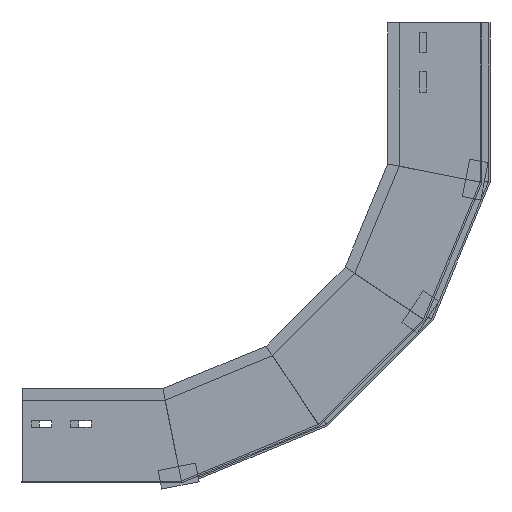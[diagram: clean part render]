
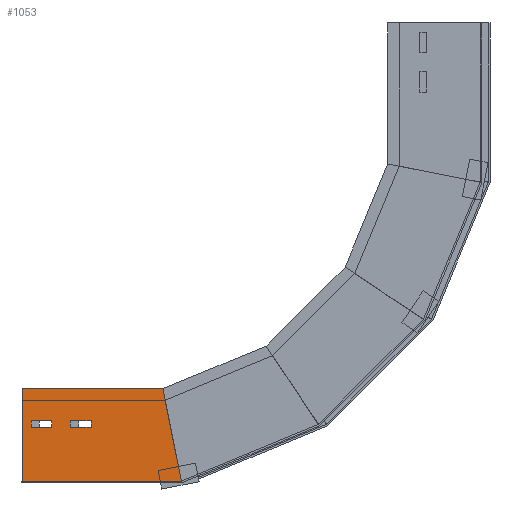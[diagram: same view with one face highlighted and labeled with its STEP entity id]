
A CAD part, left-side view. The second image highlights one B-rep face of the part: STEP entity #1053.
In plain terms, the highlighted planar face has unit normal (-1, 0, 0) as drawn and (1, 0, 0) by its records, which use the part's own axes.
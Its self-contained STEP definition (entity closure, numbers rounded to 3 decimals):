
#8 = DIRECTION ( 'NONE',  ( 0., 0., -1. ) ) ;
#22 = EDGE_CURVE ( 'NONE', #28, #1872, #430, .T. ) ;
#28 = VERTEX_POINT ( 'NONE', #1263 ) ;
#41 = DIRECTION ( 'NONE',  ( 0., 1., 0. ) ) ;
#49 = EDGE_CURVE ( 'NONE', #691, #177, #113, .T. ) ;
#51 = ORIENTED_EDGE ( 'NONE', *, *, #22, .F. ) ;
#55 = EDGE_CURVE ( 'NONE', #640, #1453, #536, .T. ) ;
#99 = ORIENTED_EDGE ( 'NONE', *, *, #364, .T. ) ;
#102 = DIRECTION ( 'NONE',  ( 0., 0., 1. ) ) ;
#104 = VECTOR ( 'NONE', #8, 1000. ) ;
#113 = LINE ( 'NONE', #1292, #1752 ) ;
#119 = CARTESIAN_POINT ( 'NONE',  ( 0., 59., -9.835 ) ) ;
#136 = CARTESIAN_POINT ( 'NONE',  ( 0., 0., -169.6 ) ) ;
#153 = FACE_BOUND ( 'NONE', #454, .T. ) ;
#157 = CARTESIAN_POINT ( 'NONE',  ( 0., 0., 0. ) ) ;
#167 = CARTESIAN_POINT ( 'NONE',  ( 0., 66., -31.835 ) ) ;
#177 = VERTEX_POINT ( 'NONE', #772 ) ;
#231 = VERTEX_POINT ( 'NONE', #157 ) ;
#280 = ORIENTED_EDGE ( 'NONE', *, *, #1283, .T. ) ;
#294 = DIRECTION ( 'NONE',  ( -1., 0., 0. ) ) ;
#298 = DIRECTION ( 'NONE',  ( 0., -1., 0. ) ) ;
#309 = ORIENTED_EDGE ( 'NONE', *, *, #942, .T. ) ;
#364 = EDGE_CURVE ( 'NONE', #1491, #1034, #502, .T. ) ;
#369 = VECTOR ( 'NONE', #863, 1000. ) ;
#397 = LINE ( 'NONE', #825, #1392 ) ;
#424 = VECTOR ( 'NONE', #856, 1000. ) ;
#430 = LINE ( 'NONE', #1860, #424 ) ;
#454 = EDGE_LOOP ( 'NONE', ( #1745, #99, #1389, #1823 ) ) ;
#488 = LINE ( 'NONE', #1386, #1105 ) ;
#501 = CARTESIAN_POINT ( 'NONE',  ( 0., 59., -31.835 ) ) ;
#502 = LINE ( 'NONE', #541, #1183 ) ;
#524 = VECTOR ( 'NONE', #41, 1000. ) ;
#527 = CARTESIAN_POINT ( 'NONE',  ( 0., 66., -9.835 ) ) ;
#536 = LINE ( 'NONE', #979, #1158 ) ;
#541 = CARTESIAN_POINT ( 'NONE',  ( 0., 66., -51.505 ) ) ;
#613 = VECTOR ( 'NONE', #1647, 1000. ) ;
#630 = EDGE_LOOP ( 'NONE', ( #1442, #1052, #1379, #309 ) ) ;
#640 = VERTEX_POINT ( 'NONE', #776 ) ;
#691 = VERTEX_POINT ( 'NONE', #1678 ) ;
#754 = CARTESIAN_POINT ( 'NONE',  ( 0., 66., -51.505 ) ) ;
#772 = CARTESIAN_POINT ( 'NONE',  ( 0., 59., -51.505 ) ) ;
#776 = CARTESIAN_POINT ( 'NONE',  ( 0., 66., -9.835 ) ) ;
#825 = CARTESIAN_POINT ( 'NONE',  ( 0., 59., -9.835 ) ) ;
#853 = AXIS2_PLACEMENT_3D ( 'NONE', #1309, #294, #1626 ) ;
#856 = DIRECTION ( 'NONE',  ( 0., -0.981, -0.195 ) ) ;
#863 = DIRECTION ( 'NONE',  ( 0., 0., -1. ) ) ;
#871 = EDGE_LOOP ( 'NONE', ( #1726, #1113, #280, #51 ) ) ;
#888 = LINE ( 'NONE', #754, #524 ) ;
#895 = CARTESIAN_POINT ( 'NONE',  ( 0., 66., -51.505 ) ) ;
#917 = VECTOR ( 'NONE', #1417, 1000. ) ;
#942 = EDGE_CURVE ( 'NONE', #1190, #1706, #397, .T. ) ;
#979 = CARTESIAN_POINT ( 'NONE',  ( 0., 66., -9.835 ) ) ;
#1009 = LINE ( 'NONE', #1040, #613 ) ;
#1012 = CARTESIAN_POINT ( 'NONE',  ( 0., 66., -31.835 ) ) ;
#1030 = FACE_BOUND ( 'NONE', #630, .T. ) ;
#1034 = VERTEX_POINT ( 'NONE', #1837 ) ;
#1040 = CARTESIAN_POINT ( 'NONE',  ( 0., 0., 0. ) ) ;
#1052 = ORIENTED_EDGE ( 'NONE', *, *, #55, .T. ) ;
#1053 = ADVANCED_FACE ( 'NONE', ( #153, #1606, #1030 ), #1156, .F. ) ;
#1082 = DIRECTION ( 'NONE',  ( 0., -1., 0. ) ) ;
#1090 = EDGE_CURVE ( 'NONE', #1264, #28, #1615, .T. ) ;
#1097 = CARTESIAN_POINT ( 'NONE',  ( 0., 0., 0. ) ) ;
#1105 = VECTOR ( 'NONE', #1082, 1000. ) ;
#1113 = ORIENTED_EDGE ( 'NONE', *, *, #1861, .F. ) ;
#1123 = DIRECTION ( 'NONE',  ( 0., 0., -1. ) ) ;
#1156 = PLANE ( 'NONE',  #853 ) ;
#1158 = VECTOR ( 'NONE', #1123, 1000. ) ;
#1167 = VECTOR ( 'NONE', #298, 1000. ) ;
#1183 = VECTOR ( 'NONE', #1393, 1000. ) ;
#1190 = VERTEX_POINT ( 'NONE', #501 ) ;
#1193 = CARTESIAN_POINT ( 'NONE',  ( 0., 100., 0. ) ) ;
#1263 = CARTESIAN_POINT ( 'NONE',  ( 0., 100., -149.709 ) ) ;
#1264 = VERTEX_POINT ( 'NONE', #1193 ) ;
#1283 = EDGE_CURVE ( 'NONE', #231, #1872, #1382, .T. ) ;
#1292 = CARTESIAN_POINT ( 'NONE',  ( 0., 59., -51.505 ) ) ;
#1309 = CARTESIAN_POINT ( 'NONE',  ( 0., 0., 0. ) ) ;
#1379 = ORIENTED_EDGE ( 'NONE', *, *, #1503, .T. ) ;
#1382 = LINE ( 'NONE', #1097, #104 ) ;
#1386 = CARTESIAN_POINT ( 'NONE',  ( 0., 66., -73.505 ) ) ;
#1389 = ORIENTED_EDGE ( 'NONE', *, *, #1535, .T. ) ;
#1392 = VECTOR ( 'NONE', #102, 1000. ) ;
#1393 = DIRECTION ( 'NONE',  ( 0., 0., -1. ) ) ;
#1417 = DIRECTION ( 'NONE',  ( 0., 1., 0. ) ) ;
#1442 = ORIENTED_EDGE ( 'NONE', *, *, #1763, .T. ) ;
#1453 = VERTEX_POINT ( 'NONE', #1012 ) ;
#1491 = VERTEX_POINT ( 'NONE', #895 ) ;
#1503 = EDGE_CURVE ( 'NONE', #1453, #1190, #1621, .T. ) ;
#1506 = EDGE_CURVE ( 'NONE', #177, #1491, #888, .T. ) ;
#1535 = EDGE_CURVE ( 'NONE', #1034, #691, #488, .T. ) ;
#1606 = FACE_OUTER_BOUND ( 'NONE', #871, .T. ) ;
#1615 = LINE ( 'NONE', #1740, #369 ) ;
#1621 = LINE ( 'NONE', #167, #1167 ) ;
#1626 = DIRECTION ( 'NONE',  ( 0., 0., 1. ) ) ;
#1647 = DIRECTION ( 'NONE',  ( 0., 1., 0. ) ) ;
#1678 = CARTESIAN_POINT ( 'NONE',  ( 0., 59., -73.505 ) ) ;
#1706 = VERTEX_POINT ( 'NONE', #119 ) ;
#1726 = ORIENTED_EDGE ( 'NONE', *, *, #1090, .F. ) ;
#1740 = CARTESIAN_POINT ( 'NONE',  ( 0., 100., 0. ) ) ;
#1742 = DIRECTION ( 'NONE',  ( 0., 0., 1. ) ) ;
#1745 = ORIENTED_EDGE ( 'NONE', *, *, #1506, .T. ) ;
#1752 = VECTOR ( 'NONE', #1742, 1000. ) ;
#1763 = EDGE_CURVE ( 'NONE', #1706, #640, #1848, .T. ) ;
#1823 = ORIENTED_EDGE ( 'NONE', *, *, #49, .T. ) ;
#1837 = CARTESIAN_POINT ( 'NONE',  ( 0., 66., -73.505 ) ) ;
#1848 = LINE ( 'NONE', #527, #917 ) ;
#1860 = CARTESIAN_POINT ( 'NONE',  ( 0., 32.452, -163.145 ) ) ;
#1861 = EDGE_CURVE ( 'NONE', #231, #1264, #1009, .T. ) ;
#1872 = VERTEX_POINT ( 'NONE', #136 ) ;
